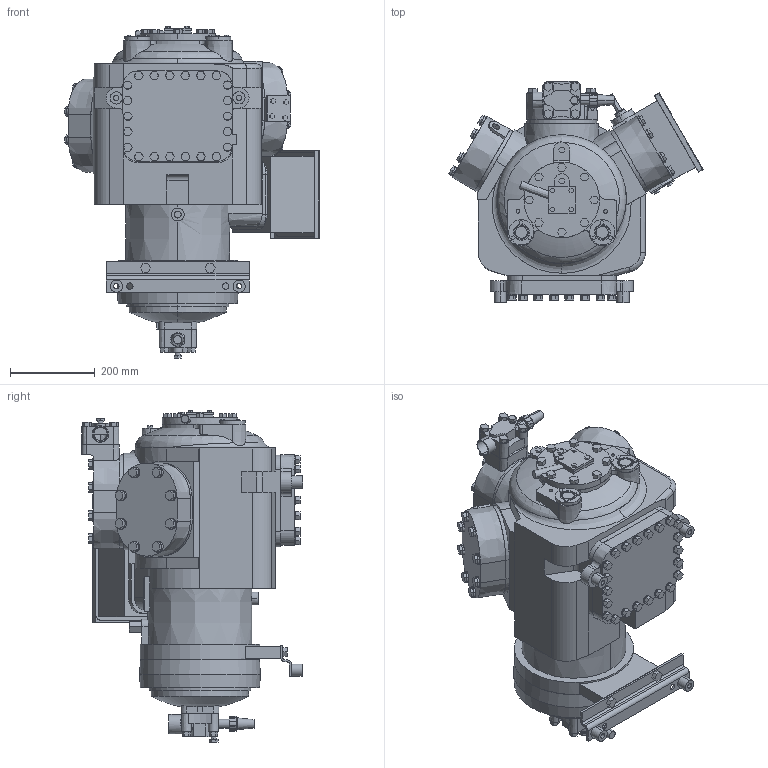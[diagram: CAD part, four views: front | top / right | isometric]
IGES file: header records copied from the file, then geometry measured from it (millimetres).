
Start section:  PTC IGES file: 06e61esss_sv_sw0001.igs
Global section: file name: 06e61esss_sv_sw0001.igs; native system: Pro/ENGINEER by Parametric Technology Corporation; preprocessor: 2001280; author: kannanb; organization: Unknown; date: 040122.230737; units: inch
Bounding box: 599.07 x 520.29 x 781.46 mm (x, y, z)
Surface area: 2027757.2 mm2 (no closed solid volume)
Topology: 0 solids, 0 shells, 1294 faces, 6527 edges, 6527 vertices
Faces by surface type: bspline 937, revolution 357
